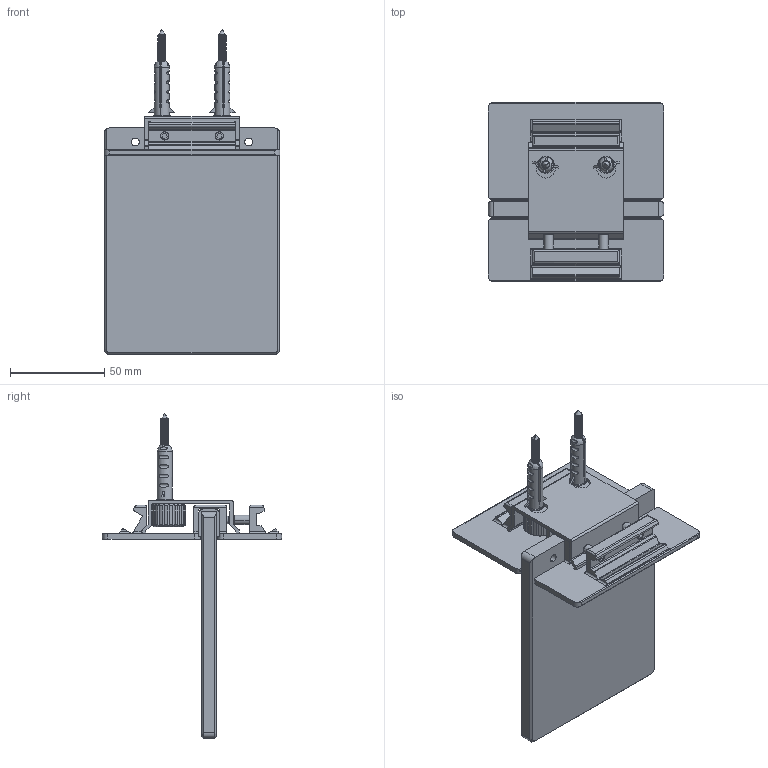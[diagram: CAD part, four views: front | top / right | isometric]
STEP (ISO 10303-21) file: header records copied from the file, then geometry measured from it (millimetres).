
FILE_DESCRIPTION (( 'STEP AP203' ), '1' );
FILE_NAME ('Z-7090-3.step', '2025-10-14T09:18:39', ( '' ), ( '' ), 'SwSTEP 2.0', 'SolidWorks 2025', '' );
FILE_SCHEMA (( 'CONFIG_CONTROL_DESIGN' ));
Length unit declared in the file: millimetre
Products named in the file (10): Z-7090-002-Lc_50; DIN 913_M4x5; Kołek rozporowy_Fischer DuoPower 6x30; Z-7090-3; wkret_z_lbem_stozkowym_ph_Ø4,5x60  DIN 7997; Z-7090-006_93; Uszczelka typu U_50mm; DIN 913_M5x12; Z-7090-003; Z-7090-001-Lc_93
Assembly tree (14 placements, depth 2):
  Z-7090-3
    Z-7090-001-Lc_93
    Z-7090-002-Lc_50
    Z-7090-003  x2
    Z-7090-006_93
    wkret_z_lbem_stozkowym_ph_Ø4,5x60  DIN 7997  x2
    DIN 913_M4x5  x2
    Kołek rozporowy_Fischer DuoPower 6x30  x2
    Uszczelka typu U_50mm
    DIN 913_M5x12  x2
Bounding box: 93 x 95 x 172.04 mm (x, y, z)
Volume: 133818.6 mm3; surface area: 70062.6 mm2
Topology: 14 solids, 14 shells, 840 faces, 2331 edges, 1542 vertices
Faces by surface type: cylinder 556, plane 210, cone 46, bspline 20, sphere 8
Entity records: 28680 total; most frequent: CARTESIAN_POINT 15125, ORIENTED_EDGE 2898, DIRECTION 2267, EDGE_CURVE 1449, VERTEX_POINT 959, AXIS2_PLACEMENT_3D 779, VECTOR 709, LINE 709
